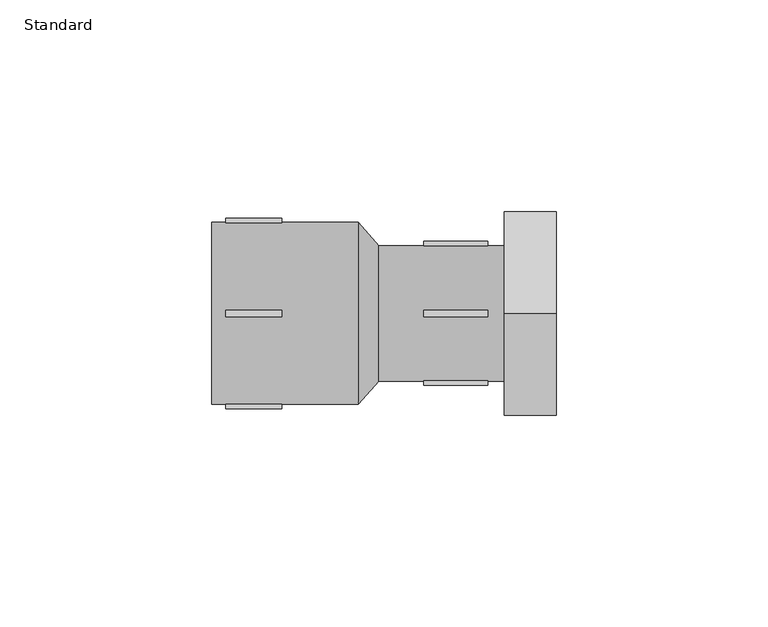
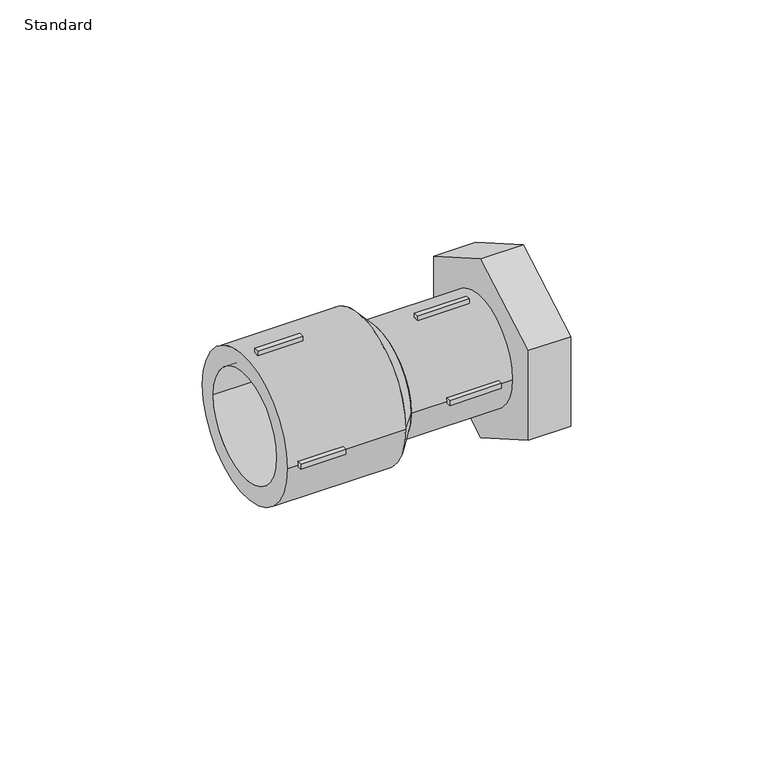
"""IFC4 building model written with IfcOpenShell, lengths in millimetres: pipe fitting geometry, EGB_VASEN_ PPR_Enlace tuerca loca : Standard."""

import ifcopenshell
import ifcopenshell.guid

model = None  # the IFC model being written
_history = None  # IfcOwnerHistory: only IFC2X3 demands one
_inside = {}  # id of a spatial element -> (the spatial element, [elements in it])
_under = {}  # id of a project, library or spatial element -> (it, [spatial elements below it])
_declared = {}  # id of a project -> (the project, [libraries it declares])
_typed = {}  # id of a type object -> (the type object, [elements of that type])
_made_of = {}  # id of a material, layer set ... -> (it, [elements and type objects made of it])


def new_model(schema):
    """Start an empty IFC model of exactly this schema.

    Asked for "IFC4X3", IfcOpenShell would pick the latest addendum, in which some entities
    have other attributes; the version numbers below select the first issue.
    IFC2X3 requires an IfcOwnerHistory on every rooted entity: one is made here for all.
    """
    global model, _history
    if schema == "IFC4X3":
        model = ifcopenshell.file(schema_version=(4, 3, 0, 0))
    else:
        model = ifcopenshell.file(schema=schema)
    _inside.clear()
    _under.clear()
    _declared.clear()
    _typed.clear()
    _made_of.clear()
    _history = None
    if model.schema == "IFC2X3":
        org = make("IfcOrganization", Name="unknown")
        user = make(
            "IfcPersonAndOrganization",
            ThePerson=make("IfcPerson", FamilyName="unknown"),
            TheOrganization=org,
        )
        app = make(
            "IfcApplication",
            ApplicationDeveloper=org,
            Version="unknown",
            ApplicationFullName="unknown",
            ApplicationIdentifier="unknown",
        )
        _history = make(
            "IfcOwnerHistory",
            OwningUser=user,
            OwningApplication=app,
            ChangeAction="ADDED",
            CreationDate=0,
        )
    return model


def make(cls, **values):
    """One entity of the class cls with the attributes given. An attribute that is None is left unset."""
    return model.create_entity(
        cls, **{name: value for name, value in values.items() if value is not None}
    )


def rooted(cls, **values):
    """An entity with a GlobalId (a new one), such as an element, a storey or a relation."""
    return make(cls, GlobalId=ifcopenshell.guid.new(), OwnerHistory=_history, **values)


def si_unit(unit_type, name, prefix=None):
    """IfcSIUnit, for example si_unit("LENGTHUNIT", "METRE", prefix="MILLI")."""
    return make("IfcSIUnit", UnitType=unit_type, Prefix=prefix, Name=name)


def assignment(units):
    """IfcUnitAssignment: the units of a project."""
    return None if units is None else make("IfcUnitAssignment", Units=units)


def point(xyz):
    """IfcCartesianPoint."""
    return None if xyz is None else make("IfcCartesianPoint", Coordinates=xyz)


def direction(xyz):
    """IfcDirection."""
    return None if xyz is None else make("IfcDirection", DirectionRatios=xyz)


def frame(location, z_axis=None, x_axis=None):
    """IfcAxis2Placement3D, a coordinate frame: its origin and axes. An axis left out is left unset."""
    return make(
        "IfcAxis2Placement3D",
        Location=point(location),
        Axis=direction(z_axis),
        RefDirection=direction(x_axis),
    )


def frame_2d(location, x_axis=None):
    """IfcAxis2Placement2D, a coordinate frame in the plane: its origin and x axis."""
    return make(
        "IfcAxis2Placement2D", Location=point(location), RefDirection=direction(x_axis)
    )


def origin():
    """The frame at (0, 0, 0) with its axes left unset."""
    return frame((0.0, 0.0, 0.0))


def origin_2d():
    """The frame at (0, 0) in the plane with its x axis left unset."""
    return frame_2d((0.0, 0.0))


def place(relative_to, where):
    """IfcLocalPlacement: puts the frame where relative to a parent placement (None: the world)."""
    return make(
        "IfcLocalPlacement", PlacementRelTo=relative_to, RelativePlacement=where
    )


def context(
    kind, dimensions, precision=None, world=None, true_north=None, identifier=None
):
    """IfcGeometricRepresentationContext, for example the 3D "Model" context."""
    return make(
        "IfcGeometricRepresentationContext",
        ContextIdentifier=identifier,
        ContextType=kind,
        CoordinateSpaceDimension=dimensions,
        Precision=precision,
        WorldCoordinateSystem=world,
        TrueNorth=true_north,
    )


def project(units=None, contexts=None):
    """IfcProject with its units and contexts."""
    return rooted(
        "IfcProject",
        Name="project",
        RepresentationContexts=contexts,
        UnitsInContext=assignment(units),
    )


def spatial(cls, under=None, at=None, **own):
    """A site, building, storey or space (cls), placed at a placement, below another one or the project."""
    s = rooted(cls, ObjectPlacement=at, **own)
    if under is not None:
        _under.setdefault(under.id(), (under, []))[1].append(s)
    return s


def polyline(points):
    """IfcPolyline through the points."""
    return make("IfcPolyline", Points=[point(p) for p in points])


def circle_curve(where, radius):
    """IfcCircle in the frame where."""
    return make("IfcCircle", Position=where, Radius=radius)


def trimmed(basis, trim1, trim2, sense, master):
    """IfcTrimmedCurve: the piece of a basis curve between two trims."""
    return make(
        "IfcTrimmedCurve",
        BasisCurve=basis,
        Trim1=trim1,
        Trim2=trim2,
        SenseAgreement=sense,
        MasterRepresentation=master,
    )


def segment(curve, same_sense, transition):
    """IfcCompositeCurveSegment."""
    return make(
        "IfcCompositeCurveSegment",
        Transition=transition,
        SameSense=same_sense,
        ParentCurve=curve,
    )


def composite_curve(segments, self_intersect=None):
    """IfcCompositeCurve: segments joined end to end."""
    return make("IfcCompositeCurve", Segments=segments, SelfIntersect=self_intersect)


def outline(outer, holes=None, kind="AREA"):
    """IfcArbitraryClosedProfileDef: a profile drawn as a closed curve; with holes, ...WithVoids."""
    if holes is None:
        return make("IfcArbitraryClosedProfileDef", ProfileType=kind, OuterCurve=outer)
    return make(
        "IfcArbitraryProfileDefWithVoids",
        ProfileType=kind,
        OuterCurve=outer,
        InnerCurves=holes,
    )


def extrude(swept, where, along, depth):
    """IfcExtrudedAreaSolid: the profile swept, set in the frame where, extruded along a direction by depth."""
    return make(
        "IfcExtrudedAreaSolid",
        SweptArea=swept,
        Position=where,
        ExtrudedDirection=direction(along),
        Depth=depth,
    )


def shape(context_of_items, identifier, shape_type, items):
    """IfcShapeRepresentation: the items that make up one representation, for example the "Body"."""
    return make(
        "IfcShapeRepresentation",
        ContextOfItems=context_of_items,
        RepresentationIdentifier=identifier,
        RepresentationType=shape_type,
        Items=items,
    )


def source(mapping_origin, context_of_items, identifier, shape_type, items):
    """IfcRepresentationMap: a shape defined once, which mapped items show again and again."""
    return make(
        "IfcRepresentationMap",
        MappingOrigin=mapping_origin,
        MappedRepresentation=shape(context_of_items, identifier, shape_type, items),
    )


def transform(
    local_origin,
    x_axis=None,
    y_axis=None,
    z_axis=None,
    scale=None,
    scale2=None,
    scale3=None,
    uniform=True,
):
    """IfcCartesianTransformationOperator3D, or its non-uniform kind. x_axis, y_axis, z_axis: its Axis1, 2, 3."""
    if uniform:
        return make(
            "IfcCartesianTransformationOperator3D",
            Axis1=direction(x_axis),
            Axis2=direction(y_axis),
            LocalOrigin=point(local_origin),
            Scale=scale,
            Axis3=direction(z_axis),
        )
    return make(
        "IfcCartesianTransformationOperator3DnonUniform",
        Axis1=direction(x_axis),
        Axis2=direction(y_axis),
        LocalOrigin=point(local_origin),
        Scale=scale,
        Axis3=direction(z_axis),
        Scale2=scale2,
        Scale3=scale3,
    )


def mapped(mapping_source, mapping_target):
    """IfcMappedItem: shows the shape of a source again, moved by a transform."""
    return make(
        "IfcMappedItem", MappingSource=mapping_source, MappingTarget=mapping_target
    )


def made_of(thing, what):
    """Note that an element or type object is made of a material, layer set ...; save() writes the relation."""
    if what is not None:
        _made_of.setdefault(what.id(), (what, []))[1].append(thing)
    return thing


def element(
    cls,
    number,
    at=None,
    inside=None,
    cuts=None,
    type_object=None,
    material=None,
    context=None,
    identifier="Body",
    shape_type=None,
    held_by="IfcProductDefinitionShape",
    body=None,
    shapes=None,
    **own,
):
    """One element of the class cls, such as IfcWall. Its Tag is "e" and its number.

    at: its placement. inside: the storey or other place that contains it. cuts: it is an
    opening in that element (IfcRelVoidsElement). A single representation is given by context,
    identifier, shape_type and body (its items); several are given by shapes. held_by: the class
    of the entity that holds the representations. save() writes the other relations.
    """
    e = rooted(cls, Tag="e%d" % number, ObjectPlacement=at, **own)
    if body is not None:
        shapes = [shape(context, identifier, shape_type, body)]
    if shapes is not None:
        e.Representation = make(held_by, Representations=shapes)
    if inside is not None:
        _inside.setdefault(inside.id(), (inside, []))[1].append(e)
    if cuts is not None:
        rooted(
            "IfcRelVoidsElement", RelatingBuildingElement=cuts, RelatedOpeningElement=e
        )
    if type_object is not None:
        _typed.setdefault(type_object.id(), (type_object, []))[1].append(e)
    return made_of(e, material)


def aggregate(whole, parts):
    """IfcRelAggregates: a whole, such as a stair, and the parts it consists of."""
    return rooted("IfcRelAggregates", RelatingObject=whole, RelatedObjects=parts)


def save(model, path):
    """Write the relations noted so far, then the file.

    IfcRelAggregates (storeys below a building ...), IfcRelContainedInSpatialStructure (elements
    in a storey), IfcRelDefinesByType, IfcRelAssociatesMaterial and IfcRelDeclares: one each for
    every whole, place, type object, material and project.
    """
    for whole, parts in _under.values():
        aggregate(whole, parts)
    for where, things in _inside.values():
        rooted(
            "IfcRelContainedInSpatialStructure",
            RelatedElements=things,
            RelatingStructure=where,
        )
    for kind, things in _typed.values():
        rooted("IfcRelDefinesByType", RelatedObjects=things, RelatingType=kind)
    for what, things in _made_of.values():
        rooted("IfcRelAssociatesMaterial", RelatedObjects=things, RelatingMaterial=what)
    for by, libraries in _declared.values():
        rooted("IfcRelDeclares", RelatingContext=by, RelatedDefinitions=libraries)
    model.write(path)


def plane_surface(at):
    """IfcPlane: the flat surface through the origin of the frame at, square to its z axis."""
    return make("IfcPlane", Position=at)


def revolved_surface(curve, axis_point, axis_direction):
    """IfcSurfaceOfRevolution: the curve turned about the line through axis_point along axis_direction."""
    return make(
        "IfcSurfaceOfRevolution",
        SweptCurve=make("IfcArbitraryOpenProfileDef", ProfileType="CURVE", Curve=curve),
        AxisPosition=make("IfcAxis1Placement", Location=point(axis_point), Axis=direction(axis_direction)),
    )


def advanced_brep(points, edges, surfaces, faces):
    """IfcAdvancedBrep: a solid bounded by faces that lie on surfaces and meet in shared edges.

    An edge is (start, end): straight between two places in points (the first is 0);
    or (start, end, curve); or (start, end, curve, False) where it runs against its curve.
    A face is (place in surfaces, loops), or (place, loops, False) where it looks against
    its surface's normal. A loop lists edges by number (the first is 1), with a minus sign
    where the edge is run from its end to its start. The first loop is the outer one.
    """
    corners = [point(p) for p in points]
    vertices = [make("IfcVertexPoint", VertexGeometry=c) for c in corners]
    made = []
    for start, end, *more in edges:
        made.append(
            make(
                "IfcEdgeCurve",
                EdgeStart=vertices[start],
                EdgeEnd=vertices[end],
                EdgeGeometry=more[0] if more else make("IfcPolyline", Points=[corners[start], corners[end]]),
                SameSense=more[1] if len(more) > 1 else True,
            )
        )
    hull = []
    for where, loops, *sense in faces:
        bounds = []
        for j, loop in enumerate(loops):
            ring = [make("IfcOrientedEdge", EdgeElement=made[abs(k) - 1], Orientation=k > 0) for k in loop]
            bounds.append(
                make(
                    "IfcFaceOuterBound" if j == 0 else "IfcFaceBound",
                    Bound=make("IfcEdgeLoop", EdgeList=ring),
                    Orientation=True,
                )
            )
        hull.append(make("IfcAdvancedFace", Bounds=bounds, FaceSurface=surfaces[where], SameSense=sense[0] if sense else True))
    return make("IfcAdvancedBrep", Outer=make("IfcClosedShell", CfsFaces=hull))


def standard_d6f67b4d(model_context):
    return source(origin(), model_context, "Body", "SolidModel", [
        extrude(outline(polyline([(0.0, 27.7128129), (24.0, 13.8564065), (24.0, -13.8564065), (0.0, -27.7128129), (-24.0, -13.8564065), (-24.0, 13.8564065), (0.0, 27.7128129)]), holes=[composite_curve([segment(trimmed(circle_curve(origin_2d(), 15.875), [point((15.875, 0.0))], [point((-15.875, 0.0))], True, "CARTESIAN"), True, "CONTINUOUS"), segment(trimmed(circle_curve(origin_2d(), 15.875), [point((-15.875, 0.0))], [point((15.875, 0.0))], True, "CARTESIAN"), True, "CONTINUOUS")], self_intersect=False)]), frame((32.0, 0.0, 0.0), z_axis=(1.0, 0.0, 0.0), x_axis=(0.0, 1.0, 0.0)), (0.0, 0.0, 1.0), 12.3333333),
        extrude(outline(polyline([(13.0, -0.75), (13.0, 0.75), (28.2, 0.75), (28.2, -0.75), (13.0, -0.75)])), frame((0.0, 0.0, 15.0), z_axis=(0.0, 0.0, 1.0), x_axis=(1.0, 0.0, 0.0)), (0.0, 0.0, 1.0), 2.0),
        extrude(outline(polyline([(13.0, -0.75), (13.0, 0.75), (28.2, 0.75), (28.2, -0.75), (13.0, -0.75)])), frame((0.0, 0.0, -17.0), z_axis=(0.0, 0.0, 1.0), x_axis=(1.0, 0.0, 0.0)), (0.0, 0.0, 1.0), 2.0),
        extrude(outline(polyline([(13.0, 15.0), (13.0, 17.0), (28.2, 17.0), (28.2, 15.0), (13.0, 15.0)])), frame((0.0, 0.0, -0.75), z_axis=(0.0, 0.0, 1.0), x_axis=(1.0, 0.0, 0.0)), (0.0, 0.0, 1.0), 1.5),
        extrude(outline(polyline([(13.0, -17.0), (13.0, -15.0), (28.2, -15.0), (28.2, -17.0), (13.0, -17.0)])), frame((0.0, 0.0, -0.75), z_axis=(0.0, 0.0, 1.0), x_axis=(1.0, 0.0, 0.0)), (0.0, 0.0, 1.0), 1.5),
        extrude(outline(polyline([(-20.5, 0.75), (-20.5, -0.75), (-33.7, -0.75), (-33.7, 0.75), (-20.5, 0.75)])), frame((0.0, 0.0, 20.5), z_axis=(0.0, 0.0, 1.0), x_axis=(1.0, 0.0, 0.0)), (0.0, 0.0, 1.0), 2.0),
        extrude(outline(polyline([(-20.5, 0.75), (-20.5, -0.75), (-33.7, -0.75), (-33.7, 0.75), (-20.5, 0.75)])), frame((0.0, 0.0, -22.5), z_axis=(0.0, 0.0, 1.0), x_axis=(1.0, 0.0, 0.0)), (0.0, 0.0, 1.0), 2.0),
        extrude(outline(polyline([(-20.5, 22.5), (-20.5, 20.5), (-33.7, 20.5), (-33.7, 22.5), (-20.5, 22.5)])), frame((0.0, 0.0, -0.75), z_axis=(0.0, 0.0, 1.0), x_axis=(1.0, 0.0, 0.0)), (0.0, 0.0, 1.0), 1.5),
        extrude(outline(polyline([(-20.5, -20.5), (-20.5, -22.5), (-33.7, -22.5), (-33.7, -20.5), (-20.5, -20.5)])), frame((0.0, 0.0, -0.75), z_axis=(0.0, 0.0, 1.0), x_axis=(1.0, 0.0, 0.0)), (0.0, 0.0, 1.0), 1.5),
        extrude(outline(composite_curve([segment(trimmed(circle_curve(origin_2d(), 16.0), [point((-16.0, 0.0))], [point((16.0, 0.0))], False, "CARTESIAN"), True, "CONTINUOUS"), segment(trimmed(circle_curve(origin_2d(), 16.0), [point((16.0, 0.0))], [point((-16.0, 0.0))], False, "CARTESIAN"), True, "CONTINUOUS")], self_intersect=False), holes=[composite_curve([segment(trimmed(circle_curve(origin_2d(), 12.0), [point((-12.0, 0.0))], [point((12.0, 0.0))], True, "CARTESIAN"), True, "CONTINUOUS"), segment(trimmed(circle_curve(origin_2d(), 12.0), [point((12.0, 0.0))], [point((-12.0, 0.0))], True, "CARTESIAN"), True, "CONTINUOUS")], self_intersect=False)]), frame((2.4, 0.0, 0.0), z_axis=(1.0, 0.0, 0.0), x_axis=(0.0, 1.0, 0.0)), (0.0, 0.0, 1.0), 29.6),
        extrude(outline(composite_curve([segment(trimmed(circle_curve(origin_2d(), 21.5), [point((-21.5, 0.0))], [point((21.5, 0.0))], False, "CARTESIAN"), True, "CONTINUOUS"), segment(trimmed(circle_curve(origin_2d(), 21.5), [point((21.5, 0.0))], [point((-21.5, 0.0))], False, "CARTESIAN"), True, "CONTINUOUS")], self_intersect=False), holes=[composite_curve([segment(trimmed(circle_curve(origin_2d(), 16.0), [point((-16.0, 0.0))], [point((16.0, 0.0))], True, "CARTESIAN"), True, "CONTINUOUS"), segment(trimmed(circle_curve(origin_2d(), 16.0), [point((16.0, 0.0))], [point((-16.0, 0.0))], True, "CARTESIAN"), True, "CONTINUOUS")], self_intersect=False)]), frame((-37.0, 0.0, 0.0), z_axis=(1.0, 0.0, 0.0), x_axis=(0.0, 1.0, 0.0)), (0.0, 0.0, 1.0), 34.6),
        advanced_brep(
        [(2.4, -16.0, 0.0), (2.4, 16.0, 0.0), (-2.4, -21.5, 0.0), (-2.4, 21.5, 0.0)],
        [
            (0, 1, circle_curve(frame((2.4, 0.0, 0.0), z_axis=(1.0, 0.0, 0.0), x_axis=(0.0, -1.0, 0.0)), 16.0)),
            (1, 0, circle_curve(frame((2.4, 0.0, 0.0), z_axis=(1.0, 0.0, 0.0), x_axis=(0.0, 1.0, 0.0)), 16.0)),
            (2, 3, circle_curve(frame((-2.4, 0.0, 0.0), z_axis=(-1.0, 0.0, 0.0), x_axis=(0.0, 1.0, 0.0)), 21.5)),
            (3, 2, circle_curve(frame((-2.4, 0.0, 0.0), z_axis=(-1.0, 0.0, 0.0), x_axis=(0.0, -1.0, 0.0)), 21.5)),
            (3, 1),
            (0, 2),
        ],
        [
            plane_surface(frame((2.4, 0.0, 0.0), z_axis=(1.0, 0.0, 0.0), x_axis=(0.0, 0.0, -1.0))),
            plane_surface(frame((-2.4, 0.0, 0.0), z_axis=(-1.0, 0.0, 0.0), x_axis=(0.0, 0.0, -1.0))),
            revolved_surface(polyline([(2.4000000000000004, -16.000000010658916, 0.0), (-2.3999999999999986, -21.5, 0.0)]), (16.3636364, 0.0, 0.0), (-1.0, 0.0, 0.0)),
            revolved_surface(polyline([(2.4000000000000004, 16.000000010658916, 0.0), (-2.3999999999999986, 21.5, 0.0)]), (16.3636364, 0.0, 0.0), (-1.0, 0.0, 0.0)),
        ],
        [
            (0, [[1, 2]]),
            (1, [[3, 4]]),
            (2, [[-4, 5, -1, 6]]),
            (3, [[-3, -6, -2, -5]]),
        ],
    ),
    ])


if __name__ == "__main__":
    model = new_model("IFC4")
    model_context = context("Model", 3, world=origin())
    ifc_project = project(units=[si_unit("LENGTHUNIT", "METRE", prefix="MILLI")], contexts=[model_context])
    site = spatial("IfcSite", under=ifc_project)
    building = spatial("IfcBuilding", under=site)
    placement = place(None, origin())
    standard_shape = standard_d6f67b4d(model_context)
    element("IfcPipeFitting", 1, ObjectType="EGB_VASEN_ PPR_Enlace tuerca loca : Standard", at=placement, inside=building, context=model_context, shape_type="MappedRepresentation", body=[
        mapped(standard_shape, transform((0.0, 0.0, 0.0), x_axis=(1.0, 0.0, 0.0), y_axis=(0.0, 1.0, 0.0), z_axis=(0.0, 0.0, 1.0))),
    ])
    save(model, "model.ifc")
